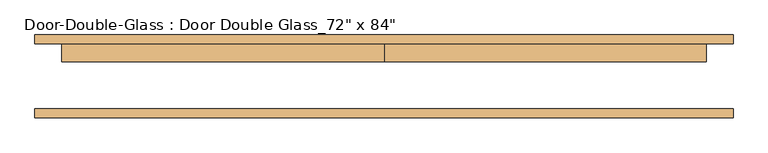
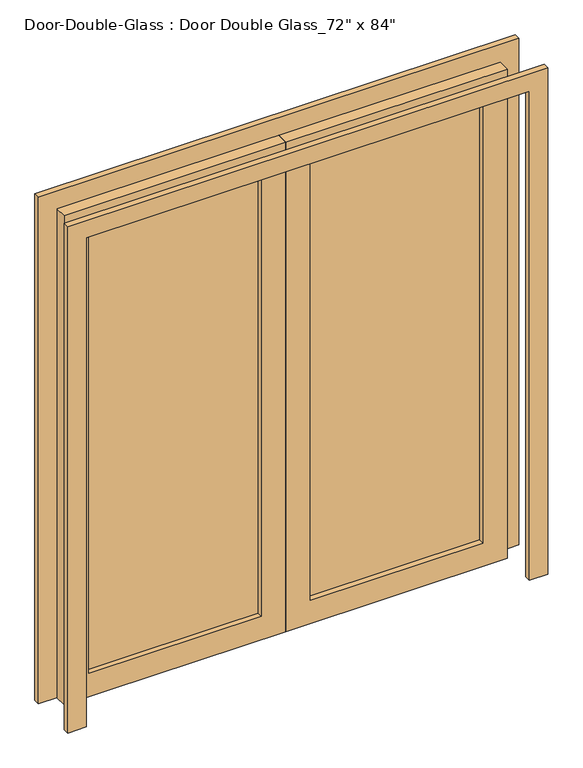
"""IFC4 building model written with IfcOpenShell, lengths in millimetres: door geometry."""

from ifc_helpers import new_model, si_unit, frame, origin, place, context, project, spatial, polyline, outline, extrude, source, transform, mapped, element, save


def door_38a2a0c9(model_context):
    return source(origin(), model_context, "Body", "SweptSolid", [
        extrude(outline(polyline([(2133.6, -914.4), (0.0, -914.4), (0.0, 0.0), (2133.6, 0.0), (2133.6, -914.4)]), holes=[polyline([(2032.0, -812.8), (2032.0, -101.6), (101.6, -101.6), (101.6, -812.8), (2032.0, -812.8)])]), frame((0.0, 43.65625, 0.0), z_axis=(0.0, 1.0, 0.0), x_axis=(0.0, 0.0, 1.0)), (0.0, 0.0, 1.0), 50.8),
        extrude(outline(polyline([(2133.6, 914.4), (2133.6, 0.0), (0.0, 0.0), (0.0, 914.4), (2133.6, 914.4)]), holes=[polyline([(2032.0, 812.8), (101.6, 812.8), (101.6, 101.6), (2032.0, 101.6), (2032.0, 812.8)])]), frame((0.0, 43.65625, 0.0), z_axis=(0.0, 1.0, 0.0), x_axis=(0.0, 0.0, 1.0)), (0.0, 0.0, 1.0), 50.8),
        extrude(outline(polyline([(101.6, 72.23125), (812.8, 72.23125), (812.8, 65.88125), (101.6, 65.88125), (101.6, 72.23125)])), frame((0.0, 0.0, 101.6), z_axis=(0.0, 0.0, 1.0), x_axis=(1.0, 0.0, 0.0)), (0.0, 0.0, 1.0), 1930.4),
        extrude(outline(polyline([(-812.8, 72.23125), (-101.6, 72.23125), (-101.6, 65.88125), (-812.8, 65.88125), (-812.8, 72.23125)])), frame((0.0, 0.0, 101.6), z_axis=(0.0, 0.0, 1.0), x_axis=(1.0, 0.0, 0.0)), (0.0, 0.0, 1.0), 1930.4),
        extrude(outline(polyline([(0.0, 990.6), (2209.8, 990.6), (2209.8, -990.6), (0.0, -990.6), (0.0, -914.4), (2133.6, -914.4), (2133.6, 914.4), (0.0, 914.4), (0.0, 990.6)])), frame((0.0, 94.45625, 0.0), z_axis=(0.0, 1.0, 0.0), x_axis=(0.0, 0.0, 1.0)), (0.0, 0.0, 1.0), 25.4),
        extrude(outline(polyline([(0.0, 990.6), (2209.8, 990.6), (2209.8, -990.6), (0.0, -990.6), (0.0, -914.4), (2133.6, -914.4), (2133.6, 914.4), (0.0, 914.4), (0.0, 990.6)])), frame((0.0, -115.09375, 0.0), z_axis=(0.0, 1.0, 0.0), x_axis=(0.0, 0.0, 1.0)), (0.0, 0.0, 1.0), 25.4),
    ])


if __name__ == "__main__":
    model = new_model("IFC4")
    model_context = context("Model", 3, world=origin())
    ifc_project = project(units=[si_unit("LENGTHUNIT", "METRE", prefix="MILLI")], contexts=[model_context])
    site = spatial("IfcSite", under=ifc_project)
    building = spatial("IfcBuilding", under=site)
    placement = place(None, origin())
    door_shape = door_38a2a0c9(model_context)
    element("IfcDoor", 1, ObjectType="Door-Double-Glass : Door Double Glass_72\" x 84\"", at=placement, inside=building, context=model_context, shape_type="MappedRepresentation", body=[
        mapped(door_shape, transform((0.0, 0.0, 0.0), x_axis=(1.0, 0.0, 0.0), y_axis=(0.0, 1.0, 0.0), z_axis=(0.0, 0.0, 1.0))),
    ])
    save(model, "model.ifc")
